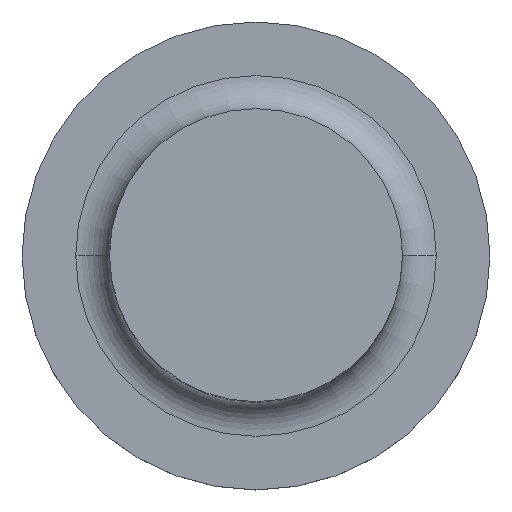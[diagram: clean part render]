
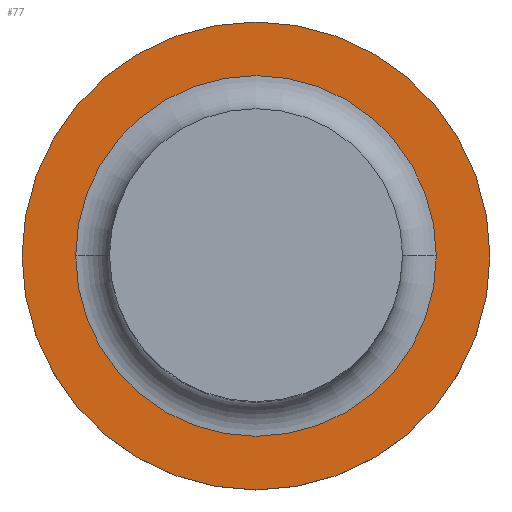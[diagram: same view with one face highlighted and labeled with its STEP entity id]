
A CAD part, top view. The second image highlights one B-rep face of the part: STEP entity #77.
In plain terms, the highlighted planar face has unit normal (0, 0, 1).
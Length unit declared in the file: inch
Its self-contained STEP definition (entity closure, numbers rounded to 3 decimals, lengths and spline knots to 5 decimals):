
#9 = EDGE_CURVE ( 'NONE', #10, #14, #438, .T. ) ;
#10 = VERTEX_POINT ( 'NONE', #403 ) ;
#14 = VERTEX_POINT ( 'NONE', #398 ) ;
#59 = VERTEX_POINT ( 'NONE', #220 ) ;
#61 = EDGE_CURVE ( 'NONE', #62, #59, #219, .T. ) ;
#62 = VERTEX_POINT ( 'NONE', #243 ) ;
#77 = ADVANCED_FACE ( 'NONE', ( #233, #227 ), #226, .T. ) ;
#78 = EDGE_LOOP ( 'NONE', ( #464, #335 ) ) ;
#84 = ORIENTED_EDGE ( 'NONE', *, *, #9, .T. ) ;
#129 = DIRECTION ( 'NONE',  ( 1., 0., 0. ) ) ;
#130 = DIRECTION ( 'NONE',  ( 0., 0., -1. ) ) ;
#131 = AXIS2_PLACEMENT_3D ( 'NONE', #135, #130, #129 ) ;
#132 = CIRCLE ( 'NONE', #131, 0.15992 ) ;
#135 = CARTESIAN_POINT ( 'NONE',  ( 0., 0., 0. ) ) ;
#143 = DIRECTION ( 'NONE',  ( 1., 0., 0. ) ) ;
#144 = DIRECTION ( 'NONE',  ( 0., 0., 1. ) ) ;
#145 = CARTESIAN_POINT ( 'NONE',  ( 0., 0., 0. ) ) ;
#166 = DIRECTION ( 'NONE',  ( 1., 0., 0. ) ) ;
#167 = DIRECTION ( 'NONE',  ( 0., 0., 1. ) ) ;
#168 = CARTESIAN_POINT ( 'NONE',  ( 0., 0., 0. ) ) ;
#169 = AXIS2_PLACEMENT_3D ( 'NONE', #168, #167, #166 ) ;
#170 = CIRCLE ( 'NONE', #169, 0.2075 ) ;
#216 = DIRECTION ( 'NONE',  ( 0., 0., -1. ) ) ;
#217 = CARTESIAN_POINT ( 'NONE',  ( 0., 0., 0. ) ) ;
#218 = AXIS2_PLACEMENT_3D ( 'NONE', #217, #216, #244 ) ;
#219 = CIRCLE ( 'NONE', #218, 0.15992 ) ;
#220 = CARTESIAN_POINT ( 'NONE',  ( -0.15992, 0., 0. ) ) ;
#225 = AXIS2_PLACEMENT_3D ( 'NONE', #145, #144, #143 ) ;
#226 = PLANE ( 'NONE',  #225 ) ;
#227 = FACE_OUTER_BOUND ( 'NONE', #325, .T. ) ;
#233 = FACE_BOUND ( 'NONE', #78, .T. ) ;
#243 = CARTESIAN_POINT ( 'NONE',  ( 0.15992, 0., 0. ) ) ;
#244 = DIRECTION ( 'NONE',  ( 1., 0., 0. ) ) ;
#324 = EDGE_CURVE ( 'NONE', #59, #62, #132, .T. ) ;
#325 = EDGE_LOOP ( 'NONE', ( #84, #330 ) ) ;
#330 = ORIENTED_EDGE ( 'NONE', *, *, #388, .T. ) ;
#335 = ORIENTED_EDGE ( 'NONE', *, *, #324, .T. ) ;
#388 = EDGE_CURVE ( 'NONE', #14, #10, #170, .T. ) ;
#398 = CARTESIAN_POINT ( 'NONE',  ( -0.2075, 0., 0. ) ) ;
#403 = CARTESIAN_POINT ( 'NONE',  ( 0.2075, 0., 0. ) ) ;
#404 = DIRECTION ( 'NONE',  ( 1., 0., 0. ) ) ;
#405 = DIRECTION ( 'NONE',  ( 0., 0., 1. ) ) ;
#436 = CARTESIAN_POINT ( 'NONE',  ( 0., 0., 0. ) ) ;
#437 = AXIS2_PLACEMENT_3D ( 'NONE', #436, #405, #404 ) ;
#438 = CIRCLE ( 'NONE', #437, 0.2075 ) ;
#464 = ORIENTED_EDGE ( 'NONE', *, *, #61, .T. ) ;
